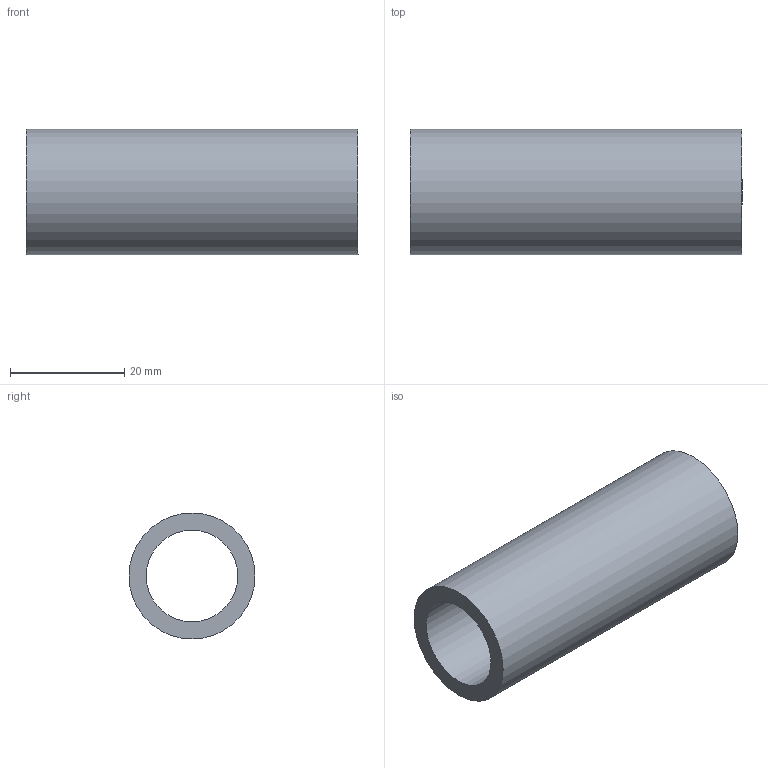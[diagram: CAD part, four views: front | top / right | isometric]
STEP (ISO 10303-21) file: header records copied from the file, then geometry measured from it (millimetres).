
FILE_DESCRIPTION(/* description */ (''),/* implementation_level */ '2;1');
FILE_NAME(/* name */ 'Pos105-Precisie buis 22x3-Aluminium-4st',/* time_stamp */ '2024-08-06T11:49:45+02:00',/* author */ (''),/* organization */ (''),/* preprocessor_version */ 'ST-DEVELOPER v16.5',/* originating_system */ 'HiCAD 2024 2901.2 Build 361',/* authorisation */ '');
FILE_SCHEMA (('AUTOMOTIVE_DESIGN { 1 0 10303 214 1 1 1 1 }'));
Length unit declared in the file: millimetre
Products named in the file (1): Pos105-Precisie buis 22x3-Aluminium-4st
Bounding box: 58 x 22 x 22 mm (x, y, z)
Volume: 10386.1 mm3; surface area: 7282.2 mm2
Topology: 1 solids, 1 shells, 4 faces, 6 edges, 4 vertices
Faces by surface type: cylinder 2, plane 2
Full cylindrical faces by diameter (mm): 16 x1, 22 x1
Entity records: 146 total; most frequent: DIRECTION 16, CARTESIAN_POINT 12, PRESENTATION_STYLE_ASSIGNMENT 9, COLOUR_RGB 9, DRAUGHTING_PRE_DEFINED_CURVE_FONT 8, CURVE_STYLE 8, OVER_RIDING_STYLED_ITEM 8, ORIENTED_EDGE 8
